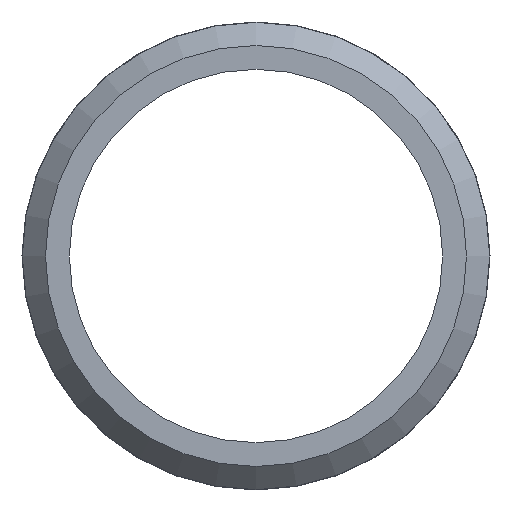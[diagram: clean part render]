
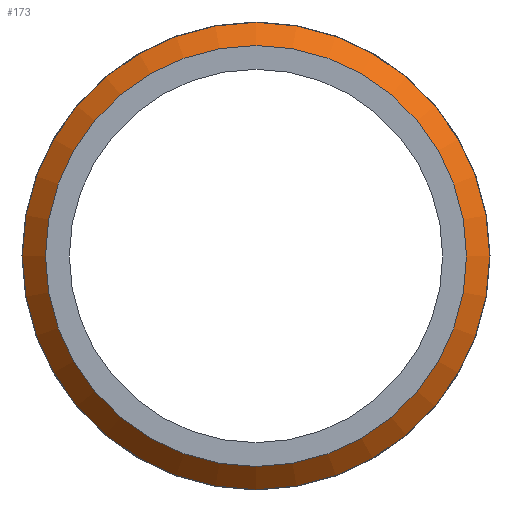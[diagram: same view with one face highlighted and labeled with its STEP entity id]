
A CAD part, front view. The second image highlights one B-rep face of the part: STEP entity #173.
In plain terms, the highlighted conical face has half-angle 45 degrees and reference radius 15.85 mm.
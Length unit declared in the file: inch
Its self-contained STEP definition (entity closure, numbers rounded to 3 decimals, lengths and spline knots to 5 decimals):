
#27=FACE_OUTER_BOUND('',#37,.T.);
#37=EDGE_LOOP('',(#123,#124,#125,#126,#127));
#51=LINE('',#294,#57);
#57=VECTOR('',#231,0.624);
#63=CIRCLE('',#198,0.5915);
#64=CIRCLE('',#199,0.6565);
#65=CIRCLE('',#200,0.6565);
#81=VERTEX_POINT('',#291);
#82=VERTEX_POINT('',#293);
#83=VERTEX_POINT('',#295);
#99=EDGE_CURVE('',#81,#81,#63,.T.);
#100=EDGE_CURVE('',#81,#82,#51,.T.);
#101=EDGE_CURVE('',#82,#83,#64,.T.);
#102=EDGE_CURVE('',#83,#82,#65,.T.);
#123=ORIENTED_EDGE('',*,*,#99,.T.);
#124=ORIENTED_EDGE('',*,*,#100,.T.);
#125=ORIENTED_EDGE('',*,*,#101,.T.);
#126=ORIENTED_EDGE('',*,*,#102,.T.);
#127=ORIENTED_EDGE('',*,*,#100,.F.);
#171=CONICAL_SURFACE('',#197,0.624,0.785);
#173=ADVANCED_FACE('',(#27),#171,.T.);
#197=AXIS2_PLACEMENT_3D('',#290,#227,#228);
#198=AXIS2_PLACEMENT_3D('',#292,#229,#230);
#199=AXIS2_PLACEMENT_3D('',#296,#232,#233);
#200=AXIS2_PLACEMENT_3D('',#297,#234,#235);
#227=DIRECTION('center_axis',(0.,1.,0.));
#228=DIRECTION('ref_axis',(0.,0.,1.));
#229=DIRECTION('center_axis',(0.,1.,0.));
#230=DIRECTION('ref_axis',(0.,0.,1.));
#231=DIRECTION('',(0.,0.707,-0.707));
#232=DIRECTION('center_axis',(0.,-1.,0.));
#233=DIRECTION('ref_axis',(0.,0.,1.));
#234=DIRECTION('center_axis',(0.,-1.,0.));
#235=DIRECTION('ref_axis',(0.,0.,1.));
#290=CARTESIAN_POINT('Origin',(0.,0.0325,0.));
#291=CARTESIAN_POINT('',(0.,0.,-0.5915));
#292=CARTESIAN_POINT('Origin',(0.,0.,0.));
#293=CARTESIAN_POINT('',(0.,0.065,-0.6565));
#294=CARTESIAN_POINT('',(0.,0.0325,-0.624));
#295=CARTESIAN_POINT('',(0.,0.065,0.6565));
#296=CARTESIAN_POINT('Origin',(0.,0.065,0.));
#297=CARTESIAN_POINT('Origin',(0.,0.065,0.));
